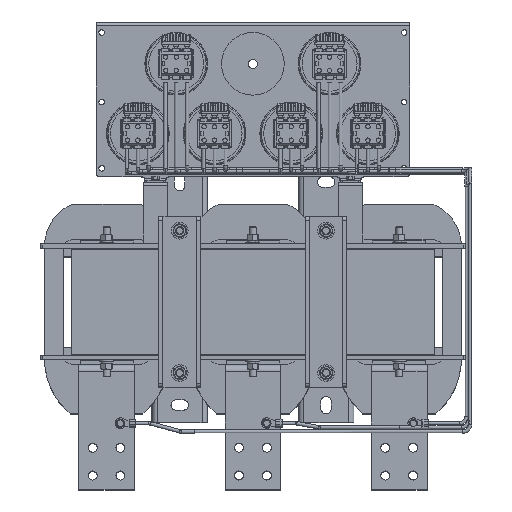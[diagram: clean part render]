
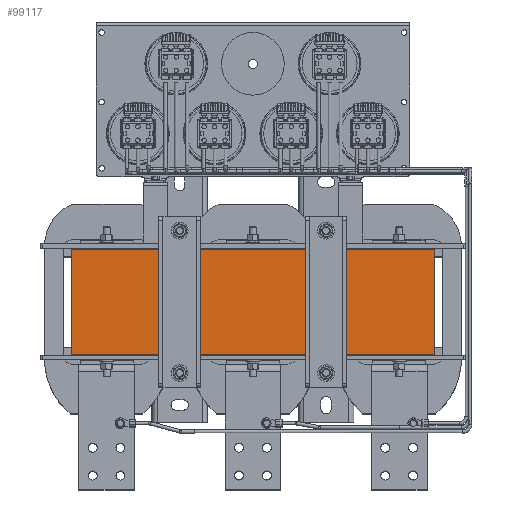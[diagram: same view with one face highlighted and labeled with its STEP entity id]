
A CAD part, top view. The second image highlights one B-rep face of the part: STEP entity #99117.
In plain terms, the highlighted planar face has unit normal (0, 0, 1).
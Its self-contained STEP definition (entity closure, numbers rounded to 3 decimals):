
#687 = DIRECTION ( 'NONE',  ( 0., 0., 1. ) ) ;
#4245 = VERTEX_POINT ( 'NONE', #58977 ) ;
#13414 = LINE ( 'NONE', #107828, #71760 ) ;
#22535 = VECTOR ( 'NONE', #52302, 1000. ) ;
#30242 = ORIENTED_EDGE ( 'NONE', *, *, #39532, .T. ) ;
#36708 = LINE ( 'NONE', #73908, #37275 ) ;
#37275 = VECTOR ( 'NONE', #105531, 1000. ) ;
#39532 = EDGE_CURVE ( 'NONE', #85480, #70788, #13414, .T. ) ;
#40163 = CARTESIAN_POINT ( 'NONE',  ( -260., 160.916, 630. ) ) ;
#43578 = EDGE_CURVE ( 'NONE', #4245, #70788, #112547, .T. ) ;
#44363 = EDGE_CURVE ( 'NONE', #94023, #4245, #36708, .T. ) ;
#44752 = ORIENTED_EDGE ( 'NONE', *, *, #65591, .T. ) ;
#52302 = DIRECTION ( 'NONE',  ( 0., -1., 0. ) ) ;
#54964 = PLANE ( 'NONE',  #107568 ) ;
#58977 = CARTESIAN_POINT ( 'NONE',  ( 260., 160.916, 630. ) ) ;
#61435 = LINE ( 'NONE', #98605, #22535 ) ;
#63835 = CARTESIAN_POINT ( 'NONE',  ( 260., 142.552, 630. ) ) ;
#64486 = CARTESIAN_POINT ( 'NONE',  ( 260., 10.912, 630. ) ) ;
#65591 = EDGE_CURVE ( 'NONE', #94023, #85480, #61435, .T. ) ;
#70788 = VERTEX_POINT ( 'NONE', #64486 ) ;
#71760 = VECTOR ( 'NONE', #116990, 1000. ) ;
#73908 = CARTESIAN_POINT ( 'NONE',  ( 0., 160.916, 630. ) ) ;
#74929 = CARTESIAN_POINT ( 'NONE',  ( -260., 10.912, 630. ) ) ;
#75164 = ORIENTED_EDGE ( 'NONE', *, *, #43578, .F. ) ;
#76101 = VECTOR ( 'NONE', #83313, 1000. ) ;
#83313 = DIRECTION ( 'NONE',  ( 0., -1., 0. ) ) ;
#85480 = VERTEX_POINT ( 'NONE', #74929 ) ;
#88653 = ORIENTED_EDGE ( 'NONE', *, *, #44363, .F. ) ;
#92114 = DIRECTION ( 'NONE',  ( 1., 0., 0. ) ) ;
#93333 = CARTESIAN_POINT ( 'NONE',  ( -225., 142.552, 630. ) ) ;
#94023 = VERTEX_POINT ( 'NONE', #40163 ) ;
#98605 = CARTESIAN_POINT ( 'NONE',  ( -260., 142.552, 630. ) ) ;
#99117 = ADVANCED_FACE ( 'NONE', ( #112696 ), #54964, .T. ) ;
#105531 = DIRECTION ( 'NONE',  ( 1., 0., 0. ) ) ;
#107568 = AXIS2_PLACEMENT_3D ( 'NONE', #93333, #687, #92114 ) ;
#107828 = CARTESIAN_POINT ( 'NONE',  ( -225., 10.912, 630. ) ) ;
#112547 = LINE ( 'NONE', #63835, #76101 ) ;
#112696 = FACE_OUTER_BOUND ( 'NONE', #114048, .T. ) ;
#114048 = EDGE_LOOP ( 'NONE', ( #75164, #88653, #44752, #30242 ) ) ;
#116990 = DIRECTION ( 'NONE',  ( 1., 0., 0. ) ) ;
